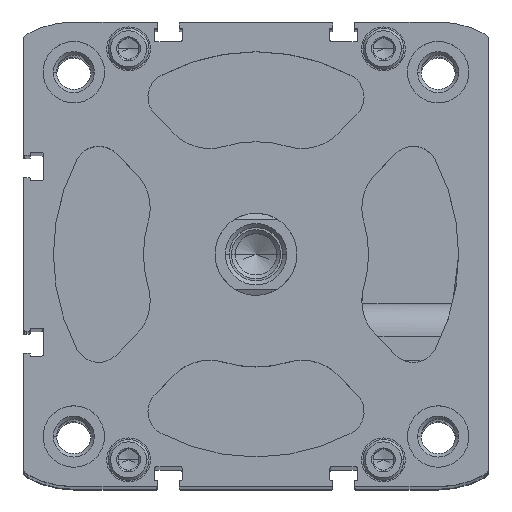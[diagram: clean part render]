
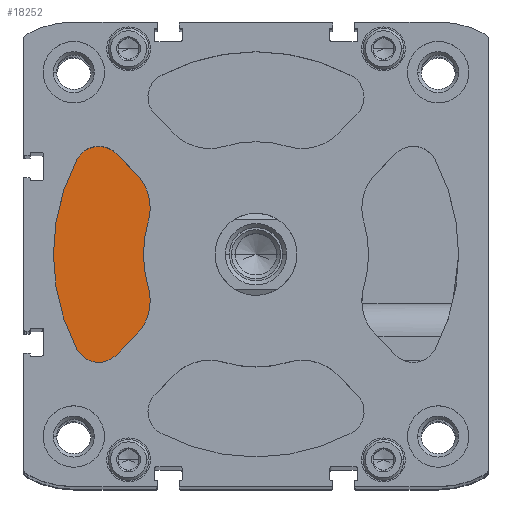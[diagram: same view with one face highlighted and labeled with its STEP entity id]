
A CAD part, top view. The second image highlights one B-rep face of the part: STEP entity #18252.
In plain terms, the highlighted planar face has unit normal (0, 0, 1).
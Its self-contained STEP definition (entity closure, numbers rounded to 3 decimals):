
#104 = CARTESIAN_POINT ( 'NONE',  ( 0., 0., -18.8 ) ) ;
#256 = DIRECTION ( 'NONE',  ( 1., 0., 0. ) ) ;
#347 = DIRECTION ( 'NONE',  ( 0., 0., 1. ) ) ;
#430 = AXIS2_PLACEMENT_3D ( 'NONE', #104, #4912, #9344 ) ;
#539 = DIRECTION ( 'NONE',  ( 0., 1., 0. ) ) ;
#600 = VERTEX_POINT ( 'NONE', #3308 ) ;
#707 = DIRECTION ( 'NONE',  ( 0., 0., 1. ) ) ;
#1069 = AXIS2_PLACEMENT_3D ( 'NONE', #11631, #17995, #3702 ) ;
#1604 = AXIS2_PLACEMENT_3D ( 'NONE', #13362, #707, #7389 ) ;
#1785 = FACE_OUTER_BOUND ( 'NONE', #7149, .T. ) ;
#1880 = CARTESIAN_POINT ( 'NONE',  ( -34.181, -24.635, -18.8 ) ) ;
#2055 = CARTESIAN_POINT ( 'NONE',  ( -38.424, 20.393, -18.8 ) ) ;
#2729 = CARTESIAN_POINT ( 'NONE',  ( -26.345, -7.885, -18.8 ) ) ;
#3114 = PLANE ( 'NONE',  #14592 ) ;
#3308 = CARTESIAN_POINT ( 'NONE',  ( -26.345, 7.885, -18.8 ) ) ;
#3541 = EDGE_CURVE ( 'NONE', #600, #20205, #16055, .T. ) ;
#3687 = CARTESIAN_POINT ( 'NONE',  ( -29.356, -19.81, -18.8 ) ) ;
#3702 = DIRECTION ( 'NONE',  ( 0., 1., 0. ) ) ;
#4074 = VECTOR ( 'NONE', #11250, 1000. ) ;
#4549 = CIRCLE ( 'NONE', #9822, 6. ) ;
#4584 = EDGE_CURVE ( 'NONE', #10813, #13030, #18553, .T. ) ;
#4912 = DIRECTION ( 'NONE',  ( 0., 0., 1. ) ) ;
#5267 = AXIS2_PLACEMENT_3D ( 'NONE', #18631, #17089, #15751 ) ;
#5498 = ORIENTED_EDGE ( 'NONE', *, *, #10207, .F. ) ;
#6087 = DIRECTION ( 'NONE',  ( 0., 1., 0. ) ) ;
#6520 = CARTESIAN_POINT ( 'NONE',  ( -34.181, -24.635, -18.8 ) ) ;
#6793 = DIRECTION ( 'NONE',  ( 0., 1., 0. ) ) ;
#6914 = LINE ( 'NONE', #6520, #4074 ) ;
#7149 = EDGE_LOOP ( 'NONE', ( #19527, #20256, #15463, #18318, #5498, #18917, #15565, #10699, #17990 ) ) ;
#7180 = LINE ( 'NONE', #11814, #19462 ) ;
#7301 = CIRCLE ( 'NONE', #1069, 49.5 ) ;
#7389 = DIRECTION ( 'NONE',  ( 0., 1., 0. ) ) ;
#7796 = VERTEX_POINT ( 'NONE', #16960 ) ;
#7982 = CARTESIAN_POINT ( 'NONE',  ( -43.724, 23.205, -18.8 ) ) ;
#8327 = DIRECTION ( 'NONE',  ( 0., 0., 1. ) ) ;
#8731 = DIRECTION ( 'NONE',  ( -0.707, 0.707, 0. ) ) ;
#9319 = CIRCLE ( 'NONE', #15246, 6. ) ;
#9344 = DIRECTION ( 'NONE',  ( 0., 1., 0. ) ) ;
#9822 = AXIS2_PLACEMENT_3D ( 'NONE', #14008, #14098, #6087 ) ;
#9924 = EDGE_CURVE ( 'NONE', #16471, #10813, #7301, .T. ) ;
#10207 = EDGE_CURVE ( 'NONE', #600, #15070, #16506, .T. ) ;
#10699 = ORIENTED_EDGE ( 'NONE', *, *, #11427, .T. ) ;
#10813 = VERTEX_POINT ( 'NONE', #14683 ) ;
#11175 = EDGE_CURVE ( 'NONE', #13030, #18796, #6914, .T. ) ;
#11250 = DIRECTION ( 'NONE',  ( 0.707, 0.707, 0. ) ) ;
#11427 = EDGE_CURVE ( 'NONE', #12840, #7796, #4549, .T. ) ;
#11631 = CARTESIAN_POINT ( 'NONE',  ( 0., 0., -18.8 ) ) ;
#11814 = CARTESIAN_POINT ( 'NONE',  ( -29.356, 19.81, -18.8 ) ) ;
#12000 = AXIS2_PLACEMENT_3D ( 'NONE', #14632, #12977, #539 ) ;
#12840 = VERTEX_POINT ( 'NONE', #17197 ) ;
#12918 = EDGE_CURVE ( 'NONE', #18796, #15070, #14807, .T. ) ;
#12977 = DIRECTION ( 'NONE',  ( 0., 0., 1. ) ) ;
#13030 = VERTEX_POINT ( 'NONE', #1880 ) ;
#13362 = CARTESIAN_POINT ( 'NONE',  ( -37.842, 11.325, -18.8 ) ) ;
#13585 = CARTESIAN_POINT ( 'NONE',  ( -29.356, 19.81, -18.8 ) ) ;
#14008 = CARTESIAN_POINT ( 'NONE',  ( -38.424, 20.393, -18.8 ) ) ;
#14098 = DIRECTION ( 'NONE',  ( 0., 0., 1. ) ) ;
#14430 = CARTESIAN_POINT ( 'NONE',  ( 0., 0., -18.8 ) ) ;
#14592 = AXIS2_PLACEMENT_3D ( 'NONE', #14430, #347, #256 ) ;
#14632 = CARTESIAN_POINT ( 'NONE',  ( -38.424, -20.393, -18.8 ) ) ;
#14683 = CARTESIAN_POINT ( 'NONE',  ( -43.724, -23.205, -18.8 ) ) ;
#14807 = CIRCLE ( 'NONE', #5267, 12. ) ;
#15070 = VERTEX_POINT ( 'NONE', #2729 ) ;
#15246 = AXIS2_PLACEMENT_3D ( 'NONE', #2055, #8327, #6793 ) ;
#15463 = ORIENTED_EDGE ( 'NONE', *, *, #11175, .T. ) ;
#15565 = ORIENTED_EDGE ( 'NONE', *, *, #15698, .T. ) ;
#15698 = EDGE_CURVE ( 'NONE', #20205, #12840, #7180, .T. ) ;
#15751 = DIRECTION ( 'NONE',  ( 0., 1., 0. ) ) ;
#16055 = CIRCLE ( 'NONE', #1604, 12. ) ;
#16471 = VERTEX_POINT ( 'NONE', #7982 ) ;
#16506 = CIRCLE ( 'NONE', #430, 27.5 ) ;
#16960 = CARTESIAN_POINT ( 'NONE',  ( -38.424, 26.393, -18.8 ) ) ;
#17089 = DIRECTION ( 'NONE',  ( 0., 0., 1. ) ) ;
#17197 = CARTESIAN_POINT ( 'NONE',  ( -34.181, 24.635, -18.8 ) ) ;
#17990 = ORIENTED_EDGE ( 'NONE', *, *, #18790, .T. ) ;
#17995 = DIRECTION ( 'NONE',  ( 0., 0., 1. ) ) ;
#18252 = ADVANCED_FACE ( 'NONE', ( #1785 ), #3114, .T. ) ;
#18318 = ORIENTED_EDGE ( 'NONE', *, *, #12918, .T. ) ;
#18553 = CIRCLE ( 'NONE', #12000, 6. ) ;
#18631 = CARTESIAN_POINT ( 'NONE',  ( -37.842, -11.325, -18.8 ) ) ;
#18790 = EDGE_CURVE ( 'NONE', #7796, #16471, #9319, .T. ) ;
#18796 = VERTEX_POINT ( 'NONE', #3687 ) ;
#18917 = ORIENTED_EDGE ( 'NONE', *, *, #3541, .T. ) ;
#19462 = VECTOR ( 'NONE', #8731, 1000. ) ;
#19527 = ORIENTED_EDGE ( 'NONE', *, *, #9924, .T. ) ;
#20205 = VERTEX_POINT ( 'NONE', #13585 ) ;
#20256 = ORIENTED_EDGE ( 'NONE', *, *, #4584, .T. ) ;
